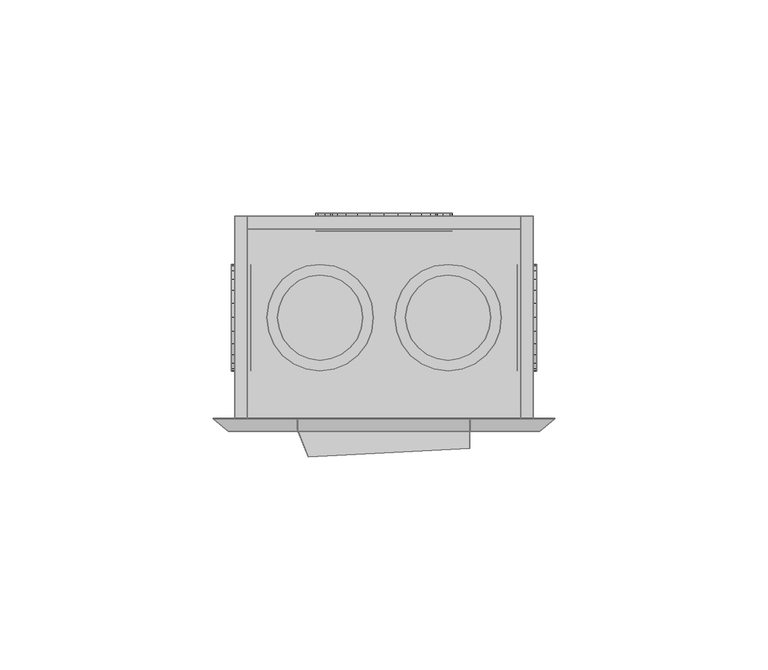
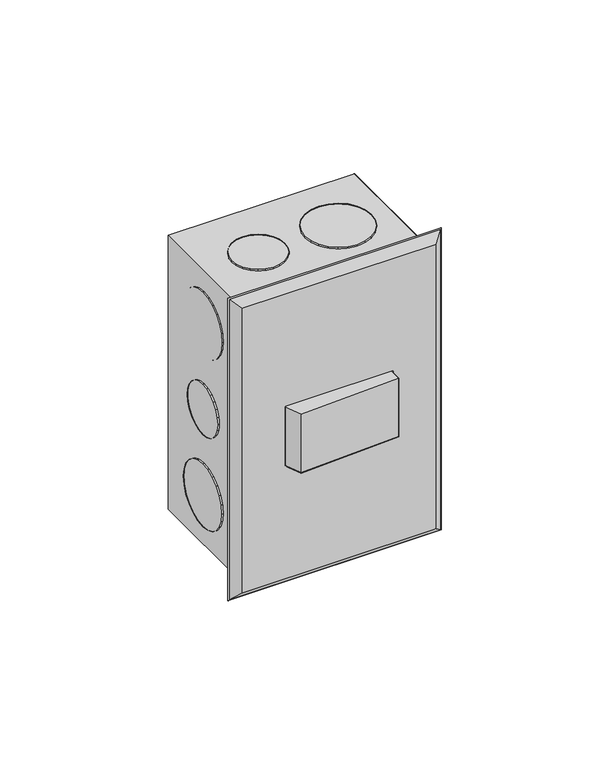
"""IFC4 building model written with IfcOpenShell, lengths in millimetres: proxy geometry,  210333 :  210333."""

from ifc_helpers import new_model, si_unit, origin, place, context, project, spatial, triangles, source, transform, mapped, element, save


def generic_models_d6097048(model_context):
    return source(origin(), model_context, "Body", "Tessellation", [
        triangles([(18080.0998993, 11498.7004578, 1254.3000378), (18077.1000824, 11498.7004578, 1148.7000154), (18080.0998993, 11498.7004578, 1145.6999805), (18077.1000824, 11498.7004578, 1251.2999302), (18010.0995209, 11498.7004578, 1254.3000378), (18013.1005005, 11498.7004578, 1251.2999302), (18010.0995209, 11498.7004578, 1145.6999805), (18013.1005005, 11498.7004578, 1148.7000154), (18077.1000824, 11546.199884, 1251.2999302), (18077.1000824, 11546.199884, 1148.7000154), (18010.0995209, 11546.199884, 1254.3000378), (18010.0995209, 11546.199884, 1145.6999805), (18013.1005005, 11546.199884, 1251.2999302), (18080.0998993, 11546.199884, 1145.6999805), (18013.1005005, 11546.199884, 1148.7000154), (18080.0998993, 11546.199884, 1254.3000378), (18077.1000824, 11543.2000671, 1251.2999302), (18013.1005005, 11543.2000671, 1148.7000154), (18077.1000824, 11543.2000671, 1148.7000154), (18013.1005005, 11543.2000671, 1251.2999302), (18059.0000244, 11542.7000977, 1191.9999887), (18053.1003845, 11542.7000977, 1186.0999855), (18056.4001831, 11542.7000977, 1188.6999722), (18060.5999268, 11542.7000977, 1195.8999687), (18049.2994537, 11542.7000977, 1184.5000105), (18061.0998962, 11542.7000977, 1200.0000092), (18045.0997101, 11542.7000977, 1183.9999683), (18060.5999268, 11542.7000977, 1204.0999769), (18040.9999603, 11542.7000977, 1184.5000105), (18059.0000244, 11542.7000977, 1208.0000296), (18037.1001984, 11542.7000977, 1186.0999855), (18056.4001831, 11542.7000977, 1211.2999735), (18033.8003998, 11542.7000977, 1188.6999722), (18053.1003845, 11542.7000977, 1213.9000328), (18031.3005524, 11542.7000977, 1191.9999887), (18049.2994537, 11542.7000977, 1215.5000078), (18029.6994873, 11542.7000977, 1195.8999687), (18045.0997101, 11542.7000977, 1215.9999773), (18029.0995239, 11542.7000977, 1200.0000092), (18040.9999603, 11542.7000977, 1215.5000078), (18029.6994873, 11542.7000977, 1204.0999769), (18037.1001984, 11542.7000977, 1213.9000328), (18031.3005524, 11542.7000977, 1208.0000296), (18033.8003998, 11542.7000977, 1211.2999735), (18040.9999603, 11546.8998413, 1184.5000105), (18045.0997101, 11546.8998413, 1183.9999683), (18049.2994537, 11546.8998413, 1184.5000105), (18053.1003845, 11546.8998413, 1186.0999855), (18056.4001831, 11546.8998413, 1188.6999722), (18059.0000244, 11546.8998413, 1191.9999887), (18060.5999268, 11546.8998413, 1195.8999687), (18061.0998962, 11546.8998413, 1200.0000092), (18060.5999268, 11546.8998413, 1204.0999769), (18059.0000244, 11546.8998413, 1208.0000296), (18056.4001831, 11546.8998413, 1211.2999735), (18053.1003845, 11546.8998413, 1213.9000328), (18049.2994537, 11546.8998413, 1215.5000078), (18045.0997101, 11546.8998413, 1215.9999773), (18040.9999603, 11546.8998413, 1215.5000078), (18037.1001984, 11546.8998413, 1213.9000328), (18033.8003998, 11546.8998413, 1211.2999735), (18031.3005524, 11546.8998413, 1208.0000296), (18029.6994873, 11546.8998413, 1204.0999769), (18029.0995239, 11546.8998413, 1200.0000092), (18029.6994873, 11546.8998413, 1195.8999687), (18031.3005524, 11546.8998413, 1191.9999887), (18033.8003998, 11546.8998413, 1188.6999722), (18037.1001984, 11546.8998413, 1186.0999855), (18056.0002075, 11542.7000977, 1227.8000565), (18051.4004883, 11542.7000977, 1223.2000465), (18054.0003296, 11542.7000977, 1225.2000698), (18057.2001343, 11542.7000977, 1230.8000187), (18048.3995087, 11542.7000977, 1221.8999805), (18057.6001099, 11542.7000977, 1233.9999687), (18045.0997101, 11542.7000977, 1221.500005), (18057.2001343, 11542.7000977, 1237.2000641), (18041.8999054, 11542.7000977, 1221.8999805), (18056.0002075, 11542.7000977, 1240.3000202), (18038.9000885, 11542.7000977, 1223.2000465), (18054.0003296, 11542.7000977, 1242.800013), (18036.3002472, 11542.7000977, 1225.2000698), (18034.3003693, 11542.7000977, 1227.8000565), (18051.4004883, 11542.7000977, 1244.8000362), (18048.3995087, 11542.7000977, 1246.0999569), (18033.1004425, 11542.7000977, 1230.8000187), (18045.0997101, 11542.7000977, 1246.4999325), (18032.600473, 11542.7000977, 1233.9999687), (18041.8999054, 11542.7000977, 1246.0999569), (18033.1004425, 11542.7000977, 1237.2000641), (18034.3003693, 11542.7000977, 1240.3000202), (18038.9000885, 11542.7000977, 1244.8000362), (18036.3002472, 11542.7000977, 1242.800013), (18033.1004425, 11546.8998413, 1230.8000187), (18034.3003693, 11546.8998413, 1227.8000565), (18036.3002472, 11546.8998413, 1225.2000698), (18038.9000885, 11546.8998413, 1223.2000465), (18041.8999054, 11546.8998413, 1221.8999805), (18045.0997101, 11546.8998413, 1221.500005), (18048.3995087, 11546.8998413, 1221.8999805), (18051.4004883, 11546.8998413, 1223.2000465), (18054.0003296, 11546.8998413, 1225.2000698), (18056.0002075, 11546.8998413, 1227.8000565), (18057.2001343, 11546.8998413, 1230.8000187), (18057.6001099, 11546.8998413, 1233.9999687), (18057.2001343, 11546.8998413, 1237.2000641), (18056.0002075, 11546.8998413, 1240.3000202), (18054.0003296, 11546.8998413, 1242.800013), (18051.4004883, 11546.8998413, 1244.8000362), (18048.3995087, 11546.8998413, 1246.0999569), (18045.0997101, 11546.8998413, 1246.4999325), (18041.8999054, 11546.8998413, 1246.0999569), (18038.9000885, 11546.8998413, 1244.8000362), (18036.3002472, 11546.8998413, 1242.800013), (18034.3003693, 11546.8998413, 1240.3000202), (18033.1004425, 11546.8998413, 1237.2000641), (18032.600473, 11546.8998413, 1233.9999687), (18051.4004883, 11546.8998413, 1155.1999821), (18056.0002075, 11546.8998413, 1159.6999981), (18054.0003296, 11546.8998413, 1157.2000053), (18048.3995087, 11546.8998413, 1153.8999887), (18057.2001343, 11546.8998413, 1162.8000269), (18045.0997101, 11546.8998413, 1153.5000132), (18057.6001099, 11546.8998413, 1165.9999769), (18041.8999054, 11546.8998413, 1153.8999887), (18057.2001343, 11546.8998413, 1169.1999996), (18038.9000885, 11546.8998413, 1155.1999821), (18056.0002075, 11546.8998413, 1172.2000345), (18036.3002472, 11546.8998413, 1157.2000053), (18054.0003296, 11546.8998413, 1174.8000212), (18034.3003693, 11546.8998413, 1159.6999981), (18051.4004883, 11546.8998413, 1176.7999718), (18033.1004425, 11546.8998413, 1162.8000269), (18048.3995087, 11546.8998413, 1178.0999651), (18045.0997101, 11546.8998413, 1178.5000134), (18032.600473, 11546.8998413, 1165.9999769), (18033.1004425, 11546.8998413, 1169.1999996), (18041.8999054, 11546.8998413, 1178.0999651), (18034.3003693, 11546.8998413, 1172.2000345), (18038.9000885, 11546.8998413, 1176.7999718), (18036.3002472, 11546.8998413, 1174.8000212), (18048.3995087, 11542.7000977, 1178.0999651), (18045.0997101, 11542.7000977, 1178.5000134), (18051.4004883, 11542.7000977, 1176.7999718), (18054.0003296, 11542.7000977, 1174.8000212), (18056.0002075, 11542.7000977, 1172.2000345), (18057.2001343, 11542.7000977, 1169.1999996), (18057.6001099, 11542.7000977, 1165.9999769), (18057.2001343, 11542.7000977, 1162.8000269), (18056.0002075, 11542.7000977, 1159.6999981), (18054.0003296, 11542.7000977, 1157.2000053), (18051.4004883, 11542.7000977, 1155.1999821), (18048.3995087, 11542.7000977, 1153.8999887), (18045.0997101, 11542.7000977, 1153.5000132), (18041.8999054, 11542.7000977, 1153.8999887), (18038.9000885, 11542.7000977, 1155.1999821), (18036.3002472, 11542.7000977, 1157.2000053), (18034.3003693, 11542.7000977, 1159.6999981), (18033.1004425, 11542.7000977, 1162.8000269), (18032.600473, 11542.7000977, 1165.9999769), (18033.1004425, 11542.7000977, 1169.1999996), (18034.3003693, 11542.7000977, 1172.2000345), (18036.3002472, 11542.7000977, 1174.8000212), (18038.9000885, 11542.7000977, 1176.7999718), (18041.8999054, 11542.7000977, 1178.0999651), (18076.3001312, 11527.3998688, 1191.3000315), (18076.3001312, 11531.0996429, 1195.0000237), (18076.3001312, 11529.4997406, 1192.9000065), (18076.3001312, 11532.0995819, 1197.4000225), (18076.3001312, 11525.0000153, 1190.3000198), (18076.3001312, 11532.3995636, 1200.0000092), (18076.3001312, 11522.400174, 1189.9999655), (18076.3001312, 11519.9003265, 1190.3000198), (18076.3001312, 11532.0995819, 1202.5999958), (18076.3001312, 11531.0996429, 1204.9999947), (18076.3001312, 11517.4004791, 1191.3000315), (18076.3001312, 11529.4997406, 1207.1000118), (18076.3001312, 11515.3994385, 1192.9000065), (18076.3001312, 11513.7995361, 1195.0000237), (18076.3001312, 11527.3998688, 1208.6999868), (18076.3001312, 11512.7995972, 1197.4000225), (18076.3001312, 11525.0000153, 1209.6999985), (18076.3001312, 11512.3996216, 1200.0000092), (18076.3001312, 11522.400174, 1209.9999802), (18076.3001312, 11512.7995972, 1202.5999958), (18076.3001312, 11519.9003265, 1209.6999985), (18076.3001312, 11517.4004791, 1208.6999868), (18076.3001312, 11513.7995361, 1204.9999947), (18076.3001312, 11515.3994385, 1207.1000118), (18080.8998505, 11522.400174, 1189.9999655), (18080.8998505, 11525.0000153, 1190.3000198), (18080.8998505, 11519.9003265, 1190.3000198), (18080.8998505, 11517.4004791, 1191.3000315), (18080.8998505, 11515.3994385, 1192.9000065), (18080.8998505, 11513.7995361, 1195.0000237), (18080.8998505, 11512.7995972, 1197.4000225), (18080.8998505, 11512.3996216, 1200.0000092), (18080.8998505, 11512.7995972, 1202.5999958), (18080.8998505, 11513.7995361, 1204.9999947), (18080.8998505, 11515.3994385, 1207.1000118), (18080.8998505, 11517.4004791, 1208.6999868), (18080.8998505, 11519.9003265, 1209.6999985), (18080.8998505, 11522.400174, 1209.9999802), (18080.8998505, 11525.0000153, 1209.6999985), (18080.8998505, 11527.3998688, 1208.6999868), (18080.8998505, 11529.4997406, 1207.1000118), (18080.8998505, 11531.0996429, 1204.9999947), (18080.8998505, 11532.0995819, 1202.5999958), (18080.8998505, 11532.3995636, 1200.0000092), (18080.8998505, 11532.0995819, 1197.4000225), (18080.8998505, 11531.0996429, 1195.0000237), (18080.8998505, 11529.4997406, 1192.9000065), (18080.8998505, 11527.3998688, 1191.3000315), (18076.3001312, 11528.6997894, 1223.2000465), (18076.3001312, 11533.2995087, 1227.8000565), (18076.3001312, 11531.2996307, 1225.2000698), (18076.3001312, 11525.6999725, 1221.8999805), (18076.3001312, 11534.4994354, 1230.8000187), (18076.3001312, 11534.9005737, 1233.9999687), (18076.3001312, 11522.400174, 1221.500005), (18076.3001312, 11519.2003693, 1221.8999805), (18076.3001312, 11534.4994354, 1237.2000641), (18076.3001312, 11533.2995087, 1240.3000202), (18076.3001312, 11516.2005524, 1223.2000465), (18076.3001312, 11513.5995483, 1225.2000698), (18076.3001312, 11531.2996307, 1242.800013), (18076.3001312, 11511.5996704, 1227.8000565), (18076.3001312, 11528.6997894, 1244.8000362), (18076.3001312, 11510.3997437, 1230.8000187), (18076.3001312, 11525.6999725, 1246.0999569), (18076.3001312, 11509.8997742, 1233.9999687), (18076.3001312, 11522.400174, 1246.4999325), (18076.3001312, 11510.3997437, 1237.2000641), (18076.3001312, 11519.2003693, 1246.0999569), (18076.3001312, 11511.5996704, 1240.3000202), (18076.3001312, 11516.2005524, 1244.8000362), (18076.3001312, 11513.5995483, 1242.800013), (18080.8998505, 11522.400174, 1221.500005), (18080.8998505, 11525.6999725, 1221.8999805), (18080.8998505, 11519.2003693, 1221.8999805), (18080.8998505, 11516.2005524, 1223.2000465), (18080.8998505, 11513.5995483, 1225.2000698), (18080.8998505, 11511.5996704, 1227.8000565), (18080.8998505, 11510.3997437, 1230.8000187), (18080.8998505, 11509.8997742, 1233.9999687), (18080.8998505, 11510.3997437, 1237.2000641), (18080.8998505, 11511.5996704, 1240.3000202), (18080.8998505, 11513.5995483, 1242.800013), (18080.8998505, 11516.2005524, 1244.8000362), (18080.8998505, 11519.2003693, 1246.0999569), (18080.8998505, 11522.400174, 1246.4999325), (18080.8998505, 11525.6999725, 1246.0999569), (18080.8998505, 11528.6997894, 1244.8000362), (18080.8998505, 11531.2996307, 1242.800013), (18080.8998505, 11533.2995087, 1240.3000202), (18080.8998505, 11534.4994354, 1237.2000641), (18080.8998505, 11534.9005737, 1233.9999687), (18080.8998505, 11534.4994354, 1230.8000187), (18080.8998505, 11533.2995087, 1227.8000565), (18080.8998505, 11531.2996307, 1225.2000698), (18080.8998505, 11528.6997894, 1223.2000465), (18080.8998505, 11533.2995087, 1159.6999981), (18080.8998505, 11528.6997894, 1155.1999821), (18080.8998505, 11531.2996307, 1157.2000053), (18080.8998505, 11534.4994354, 1162.8000269), (18080.8998505, 11525.6999725, 1153.8999887), (18080.8998505, 11534.9005737, 1165.9999769), (18080.8998505, 11522.400174, 1153.5000132), (18080.8998505, 11534.4994354, 1169.1999996), (18080.8998505, 11519.2003693, 1153.8999887), (18080.8998505, 11533.2995087, 1172.2000345), (18080.8998505, 11516.2005524, 1155.1999821), (18080.8998505, 11531.2996307, 1174.8000212), (18080.8998505, 11513.5995483, 1157.2000053), (18080.8998505, 11528.6997894, 1176.7999718), (18080.8998505, 11511.5996704, 1159.6999981), (18080.8998505, 11525.6999725, 1178.0999651), (18080.8998505, 11510.3997437, 1162.8000269), (18080.8998505, 11522.400174, 1178.5000134), (18080.8998505, 11509.8997742, 1165.9999769), (18080.8998505, 11519.2003693, 1178.0999651), (18080.8998505, 11510.3997437, 1169.1999996), (18080.8998505, 11516.2005524, 1176.7999718), (18080.8998505, 11511.5996704, 1172.2000345), (18080.8998505, 11513.5995483, 1174.8000212), (18076.3001312, 11525.6999725, 1178.0999651), (18076.3001312, 11522.400174, 1178.5000134), (18076.3001312, 11519.2003693, 1178.0999651), (18076.3001312, 11516.2005524, 1176.7999718), (18076.3001312, 11513.5995483, 1174.8000212), (18076.3001312, 11511.5996704, 1172.2000345), (18076.3001312, 11510.3997437, 1169.1999996), (18076.3001312, 11509.8997742, 1165.9999769), (18076.3001312, 11510.3997437, 1162.8000269), (18076.3001312, 11511.5996704, 1159.6999981), (18076.3001312, 11513.5995483, 1157.2000053), (18076.3001312, 11516.2005524, 1155.1999821), (18076.3001312, 11519.2003693, 1153.8999887), (18076.3001312, 11522.400174, 1153.5000132), (18076.3001312, 11525.6999725, 1153.8999887), (18076.3001312, 11528.6997894, 1155.1999821), (18076.3001312, 11531.2996307, 1157.2000053), (18076.3001312, 11533.2995087, 1159.6999981), (18076.3001312, 11534.4994354, 1162.8000269), (18076.3001312, 11534.9005737, 1165.9999769), (18076.3001312, 11534.4994354, 1169.1999996), (18076.3001312, 11533.2995087, 1172.2000345), (18076.3001312, 11531.2996307, 1174.8000212), (18076.3001312, 11528.6997894, 1176.7999718), (18013.9004517, 11531.0996429, 1195.0000237), (18013.9004517, 11527.3998688, 1191.3000315), (18013.9004517, 11529.4997406, 1192.9000065), (18013.9004517, 11532.0995819, 1197.4000225), (18013.9004517, 11525.0000153, 1190.3000198), (18013.9004517, 11532.3995636, 1200.0000092), (18013.9004517, 11522.400174, 1189.9999655), (18013.9004517, 11532.0995819, 1202.5999958), (18013.9004517, 11519.9003265, 1190.3000198), (18013.9004517, 11531.0996429, 1204.9999947), (18013.9004517, 11517.4004791, 1191.3000315), (18013.9004517, 11529.4997406, 1207.1000118), (18013.9004517, 11515.3994385, 1192.9000065), (18013.9004517, 11527.3998688, 1208.6999868), (18013.9004517, 11513.7995361, 1195.0000237), (18013.9004517, 11525.0000153, 1209.6999985), (18013.9004517, 11512.7995972, 1197.4000225), (18013.9004517, 11512.3996216, 1200.0000092), (18013.9004517, 11522.400174, 1209.9999802), (18013.9004517, 11519.9003265, 1209.6999985), (18013.9004517, 11512.7995972, 1202.5999958), (18013.9004517, 11517.4004791, 1208.6999868), (18013.9004517, 11513.7995361, 1204.9999947), (18013.9004517, 11515.3994385, 1207.1000118), (18009.2995697, 11525.0000153, 1209.6999985), (18009.2995697, 11522.400174, 1209.9999802), (18009.2995697, 11519.9003265, 1209.6999985), (18009.2995697, 11517.4004791, 1208.6999868), (18009.2995697, 11515.3994385, 1207.1000118), (18009.2995697, 11513.7995361, 1204.9999947), (18009.2995697, 11512.7995972, 1202.5999958), (18009.2995697, 11512.3996216, 1200.0000092), (18009.2995697, 11512.7995972, 1197.4000225), (18009.2995697, 11513.7995361, 1195.0000237), (18009.2995697, 11515.3994385, 1192.9000065), (18009.2995697, 11517.4004791, 1191.3000315), (18009.2995697, 11519.9003265, 1190.3000198), (18009.2995697, 11522.400174, 1189.9999655), (18009.2995697, 11525.0000153, 1190.3000198), (18009.2995697, 11527.3998688, 1191.3000315), (18009.2995697, 11529.4997406, 1192.9000065), (18009.2995697, 11531.0996429, 1195.0000237), (18009.2995697, 11532.0995819, 1197.4000225), (18009.2995697, 11532.3995636, 1200.0000092), (18009.2995697, 11532.0995819, 1202.5999958), (18009.2995697, 11531.0996429, 1204.9999947), (18009.2995697, 11529.4997406, 1207.1000118), (18009.2995697, 11527.3998688, 1208.6999868), (18013.9004517, 11533.2995087, 1159.6999981), (18013.9004517, 11528.6997894, 1155.1999821), (18013.9004517, 11531.2996307, 1157.2000053), (18013.9004517, 11534.4994354, 1162.8000269), (18013.9004517, 11525.6999725, 1153.8999887), (18013.9004517, 11534.9005737, 1165.9999769), (18013.9004517, 11522.400174, 1153.5000132), (18013.9004517, 11534.4994354, 1169.1999996), (18013.9004517, 11519.2003693, 1153.8999887), (18013.9004517, 11533.2995087, 1172.2000345), (18013.9004517, 11516.2005524, 1155.1999821), (18013.9004517, 11531.2996307, 1174.8000212), (18013.9004517, 11513.5995483, 1157.2000053), (18013.9004517, 11528.6997894, 1176.7999718), (18013.9004517, 11511.5996704, 1159.6999981), (18013.9004517, 11525.6999725, 1178.0999651), (18013.9004517, 11510.3997437, 1162.8000269), (18013.9004517, 11522.400174, 1178.5000134), (18013.9004517, 11509.8997742, 1165.9999769), (18013.9004517, 11519.2003693, 1178.0999651), (18013.9004517, 11510.3997437, 1169.1999996), (18013.9004517, 11516.2005524, 1176.7999718), (18013.9004517, 11511.5996704, 1172.2000345), (18013.9004517, 11513.5995483, 1174.8000212), (18009.2995697, 11525.6999725, 1178.0999651), (18009.2995697, 11522.400174, 1178.5000134), (18009.2995697, 11519.2003693, 1178.0999651), (18009.2995697, 11516.2005524, 1176.7999718), (18009.2995697, 11513.5995483, 1174.8000212), (18009.2995697, 11511.5996704, 1172.2000345), (18009.2995697, 11510.3997437, 1169.1999996), (18009.2995697, 11509.8997742, 1165.9999769), (18009.2995697, 11510.3997437, 1162.8000269), (18009.2995697, 11511.5996704, 1159.6999981), (18009.2995697, 11513.5995483, 1157.2000053), (18009.2995697, 11516.2005524, 1155.1999821), (18009.2995697, 11519.2003693, 1153.8999887), (18009.2995697, 11522.400174, 1153.5000132), (18009.2995697, 11525.6999725, 1153.8999887), (18009.2995697, 11528.6997894, 1155.1999821), (18009.2995697, 11531.2996307, 1157.2000053), (18009.2995697, 11533.2995087, 1159.6999981), (18009.2995697, 11534.4994354, 1162.8000269), (18009.2995697, 11534.9005737, 1165.9999769), (18009.2995697, 11534.4994354, 1169.1999996), (18009.2995697, 11533.2995087, 1172.2000345), (18009.2995697, 11531.2996307, 1174.8000212), (18009.2995697, 11528.6997894, 1176.7999718), (18009.2995697, 11528.6997894, 1223.2000465), (18009.2995697, 11533.2995087, 1227.8000565), (18009.2995697, 11531.2996307, 1225.2000698), (18009.2995697, 11525.6999725, 1221.8999805), (18009.2995697, 11534.4994354, 1230.8000187), (18009.2995697, 11534.9005737, 1233.9999687), (18009.2995697, 11522.400174, 1221.500005), (18009.2995697, 11519.2003693, 1221.8999805), (18009.2995697, 11534.4994354, 1237.2000641), (18009.2995697, 11533.2995087, 1240.3000202), (18009.2995697, 11516.2005524, 1223.2000465), (18009.2995697, 11513.5995483, 1225.2000698), (18009.2995697, 11531.2996307, 1242.800013), (18009.2995697, 11511.5996704, 1227.8000565), (18009.2995697, 11528.6997894, 1244.8000362), (18009.2995697, 11510.3997437, 1230.8000187), (18009.2995697, 11525.6999725, 1246.0999569), (18009.2995697, 11509.8997742, 1233.9999687), (18009.2995697, 11522.400174, 1246.4999325), (18009.2995697, 11510.3997437, 1237.2000641), (18009.2995697, 11519.2003693, 1246.0999569), (18009.2995697, 11511.5996704, 1240.3000202), (18009.2995697, 11516.2005524, 1244.8000362), (18009.2995697, 11513.5995483, 1242.800013), (18013.9004517, 11522.400174, 1221.500005), (18013.9004517, 11525.6999725, 1221.8999805), (18013.9004517, 11519.2003693, 1221.8999805), (18013.9004517, 11516.2005524, 1223.2000465), (18013.9004517, 11513.5995483, 1225.2000698), (18013.9004517, 11511.5996704, 1227.8000565), (18013.9004517, 11510.3997437, 1230.8000187), (18013.9004517, 11509.8997742, 1233.9999687), (18013.9004517, 11510.3997437, 1237.2000641), (18013.9004517, 11511.5996704, 1240.3000202), (18013.9004517, 11513.5995483, 1242.800013), (18013.9004517, 11516.2005524, 1244.8000362), (18013.9004517, 11519.2003693, 1246.0999569), (18013.9004517, 11522.400174, 1246.4999325), (18013.9004517, 11525.6999725, 1246.0999569), (18013.9004517, 11528.6997894, 1244.8000362), (18013.9004517, 11531.2996307, 1242.800013), (18013.9004517, 11533.2995087, 1240.3000202), (18013.9004517, 11534.4994354, 1237.2000641), (18013.9004517, 11534.9005737, 1233.9999687), (18013.9004517, 11534.4994354, 1230.8000187), (18013.9004517, 11533.2995087, 1227.8000565), (18013.9004517, 11531.2996307, 1225.2000698), (18013.9004517, 11528.6997894, 1223.2000465), (18071.0004547, 11528.6997894, 1250.9999485), (18066.3995728, 11533.2995087, 1250.9999485), (18069.0005768, 11531.2996307, 1250.9999485), (18072.2003815, 11525.6999725, 1250.9999485), (18063.3997559, 11534.4994354, 1250.9999485), (18060.0999573, 11534.9005737, 1250.9999485), (18072.6003571, 11522.400174, 1250.9999485), (18072.2003815, 11519.2003693, 1250.9999485), (18056.9001526, 11534.4994354, 1250.9999485), (18053.9003357, 11533.2995087, 1250.9999485), (18071.0004547, 11516.2005524, 1250.9999485), (18069.0005768, 11513.5995483, 1250.9999485), (18051.3004944, 11531.2996307, 1250.9999485), (18049.2994537, 11528.6997894, 1250.9999485), (18066.3995728, 11511.5996704, 1250.9999485), (18063.3997559, 11510.3997437, 1250.9999485), (18048.099527, 11525.6999725, 1250.9999485), (18060.0999573, 11509.8997742, 1250.9999485), (18047.5995575, 11522.400174, 1250.9999485), (18056.9001526, 11510.3997437, 1250.9999485), (18048.099527, 11519.2003693, 1250.9999485), (18049.2994537, 11516.2005524, 1250.9999485), (18053.9003357, 11511.5996704, 1250.9999485), (18051.3004944, 11513.5995483, 1250.9999485), (18060.0999573, 11534.9005737, 1255.1999828), (18056.9001526, 11534.4994354, 1255.1999828), (18063.3997559, 11534.4994354, 1255.1999828), (18066.3995728, 11533.2995087, 1255.1999828), (18069.0005768, 11531.2996307, 1255.1999828), (18071.0004547, 11528.6997894, 1255.1999828), (18072.2003815, 11525.6999725, 1255.1999828), (18072.6003571, 11522.400174, 1255.1999828), (18072.2003815, 11519.2003693, 1255.1999828), (18071.0004547, 11516.2005524, 1255.1999828), (18069.0005768, 11513.5995483, 1255.1999828), (18066.3995728, 11511.5996704, 1255.1999828), (18063.3997559, 11510.3997437, 1255.1999828), (18060.0999573, 11509.8997742, 1255.1999828), (18056.9001526, 11510.3997437, 1255.1999828), (18053.9003357, 11511.5996704, 1255.1999828), (18051.3004944, 11513.5995483, 1255.1999828), (18049.2994537, 11516.2005524, 1255.1999828), (18048.099527, 11519.2003693, 1255.1999828), (18047.5995575, 11522.400174, 1255.1999828), (18048.099527, 11525.6999725, 1255.1999828), (18049.2994537, 11528.6997894, 1255.1999828), (18051.3004944, 11531.2996307, 1255.1999828), (18053.9003357, 11533.2995087, 1255.1999828), (18038.8000946, 11527.3998688, 1250.9999485), (18035.1003204, 11531.0996429, 1250.9999485), (18037.2001923, 11529.4997406, 1250.9999485), (18032.7004669, 11532.0995819, 1250.9999485), (18039.8000336, 11525.0000153, 1250.9999485), (18030.0994629, 11532.3995636, 1250.9999485), (18040.1000153, 11522.400174, 1250.9999485), (18039.8000336, 11519.9003265, 1250.9999485), (18027.4996216, 11532.0995819, 1250.9999485), (18025.0997681, 11531.0996429, 1250.9999485), (18038.8000946, 11517.4004791, 1250.9999485), (18023.0998901, 11529.4997406, 1250.9999485), (18037.2001923, 11515.3994385, 1250.9999485), (18035.1003204, 11513.7995361, 1250.9999485), (18021.4999878, 11527.3998688, 1250.9999485), (18020.5000488, 11525.0000153, 1250.9999485), (18032.7004669, 11512.7995972, 1250.9999485), (18030.0994629, 11512.3996216, 1250.9999485), (18020.1000732, 11522.400174, 1250.9999485), (18027.4996216, 11512.7995972, 1250.9999485), (18020.5000488, 11519.9003265, 1250.9999485), (18025.0997681, 11513.7995361, 1250.9999485), (18021.4999878, 11517.4004791, 1250.9999485), (18023.0998901, 11515.3994385, 1250.9999485), (18027.4996216, 11532.0995819, 1255.1999828), (18025.0997681, 11531.0996429, 1255.1999828), (18030.0994629, 11532.3995636, 1255.1999828), (18032.7004669, 11532.0995819, 1255.1999828), (18035.1003204, 11531.0996429, 1255.1999828), (18037.2001923, 11529.4997406, 1255.1999828), (18038.8000946, 11527.3998688, 1255.1999828), (18039.8000336, 11525.0000153, 1255.1999828), (18040.1000153, 11522.400174, 1255.1999828), (18039.8000336, 11519.9003265, 1255.1999828), (18038.8000946, 11517.4004791, 1255.1999828), (18037.2001923, 11515.3994385, 1255.1999828), (18035.1003204, 11513.7995361, 1255.1999828), (18032.7004669, 11512.7995972, 1255.1999828), (18030.0994629, 11512.3996216, 1255.1999828), (18027.4996216, 11512.7995972, 1255.1999828), (18025.0997681, 11513.7995361, 1255.1999828), (18023.0998901, 11515.3994385, 1255.1999828), (18021.4999878, 11517.4004791, 1255.1999828), (18020.5000488, 11519.9003265, 1255.1999828), (18020.1000732, 11522.400174, 1255.1999828), (18020.5000488, 11525.0000153, 1255.1999828), (18021.4999878, 11527.3998688, 1255.1999828), (18023.0998901, 11529.4997406, 1255.1999828), (18068.7994263, 11527.3998688, 1144.8000355), (18065.0996521, 11531.0996429, 1144.8000355), (18067.1995239, 11529.4997406, 1144.8000355), (18062.6997986, 11532.0995819, 1144.8000355), (18069.800528, 11525.0000153, 1144.8000355), (18060.0999573, 11532.3995636, 1144.8000355), (18070.1005096, 11522.400174, 1144.8000355), (18069.800528, 11519.9003265, 1144.8000355), (18057.500116, 11532.0995819, 1144.8000355), (18055.1002625, 11531.0996429, 1144.8000355), (18068.7994263, 11517.4004791, 1144.8000355), (18053.1003845, 11529.4997406, 1144.8000355), (18067.1995239, 11515.3994385, 1144.8000355), (18065.0996521, 11513.7995361, 1144.8000355), (18051.5004822, 11527.3998688, 1144.8000355), (18050.5005432, 11525.0000153, 1144.8000355), (18062.6997986, 11512.7995972, 1144.8000355), (18060.0999573, 11512.3996216, 1144.8000355), (18050.1005676, 11522.400174, 1144.8000355), (18057.500116, 11512.7995972, 1144.8000355), (18050.5005432, 11519.9003265, 1144.8000355), (18055.1002625, 11513.7995361, 1144.8000355), (18051.5004822, 11517.4004791, 1144.8000355), (18053.1003845, 11515.3994385, 1144.8000355), (18062.6997986, 11532.0995819, 1149.099991), (18060.0999573, 11532.3995636, 1149.099991), (18065.0996521, 11531.0996429, 1149.099991), (18067.1995239, 11529.4997406, 1149.099991), (18068.7994263, 11527.3998688, 1149.099991), (18069.800528, 11525.0000153, 1149.099991), (18070.1005096, 11522.400174, 1149.099991), (18069.800528, 11519.9003265, 1149.099991), (18068.7994263, 11517.4004791, 1149.099991), (18067.1995239, 11515.3994385, 1149.099991), (18065.0996521, 11513.7995361, 1149.099991), (18062.6997986, 11512.7995972, 1149.099991), (18060.0999573, 11512.3996216, 1149.099991), (18057.500116, 11512.7995972, 1149.099991), (18055.1002625, 11513.7995361, 1149.099991), (18053.1003845, 11515.3994385, 1149.099991), (18051.5004822, 11517.4004791, 1149.099991), (18050.5005432, 11519.9003265, 1149.099991), (18050.1005676, 11522.400174, 1149.099991), (18050.5005432, 11525.0000153, 1149.099991), (18051.5004822, 11527.3998688, 1149.099991), (18053.1003845, 11529.4997406, 1149.099991), (18055.1002625, 11531.0996429, 1149.099991), (18057.500116, 11532.0995819, 1149.099991), (18040.9999603, 11528.6997894, 1144.8000355), (18036.4002411, 11533.2995087, 1144.8000355), (18039.0000824, 11531.2996307, 1144.8000355), (18042.1998871, 11525.6999725, 1144.8000355), (18033.4004242, 11534.4994354, 1144.8000355), (18030.0994629, 11534.9005737, 1144.8000355), (18042.5998627, 11522.400174, 1144.8000355), (18042.1998871, 11519.2003693, 1144.8000355), (18026.8996582, 11534.4994354, 1144.8000355), (18023.8998413, 11533.2995087, 1144.8000355), (18040.9999603, 11516.2005524, 1144.8000355), (18039.0000824, 11513.5995483, 1144.8000355), (18021.3, 11531.2996307, 1144.8000355), (18019.3001221, 11528.6997894, 1144.8000355), (18036.4002411, 11511.5996704, 1144.8000355), (18033.4004242, 11510.3997437, 1144.8000355), (18018.1001953, 11525.6999725, 1144.8000355), (18030.0994629, 11509.8997742, 1144.8000355), (18017.6002258, 11522.400174, 1144.8000355), (18026.8996582, 11510.3997437, 1144.8000355), (18018.1001953, 11519.2003693, 1144.8000355), (18019.3001221, 11516.2005524, 1144.8000355), (18023.8998413, 11511.5996704, 1144.8000355), (18021.3, 11513.5995483, 1144.8000355), (18026.8996582, 11534.4994354, 1149.099991), (18023.8998413, 11533.2995087, 1149.099991), (18030.0994629, 11534.9005737, 1149.099991), (18033.4004242, 11534.4994354, 1149.099991), (18036.4002411, 11533.2995087, 1149.099991), (18039.0000824, 11531.2996307, 1149.099991), (18040.9999603, 11528.6997894, 1149.099991), (18042.1998871, 11525.6999725, 1149.099991), (18042.5998627, 11522.400174, 1149.099991), (18042.1998871, 11519.2003693, 1149.099991), (18040.9999603, 11516.2005524, 1149.099991), (18039.0000824, 11513.5995483, 1149.099991), (18036.4002411, 11511.5996704, 1149.099991), (18033.4004242, 11510.3997437, 1149.099991), (18030.0994629, 11509.8997742, 1149.099991), (18026.8996582, 11510.3997437, 1149.099991), (18023.8998413, 11511.5996704, 1149.099991), (18021.3, 11513.5995483, 1149.099991), (18019.3001221, 11516.2005524, 1149.099991), (18018.1001953, 11519.2003693, 1149.099991), (18017.6002258, 11522.400174, 1149.099991), (18018.1001953, 11525.6999725, 1149.099991), (18019.3001221, 11528.6997894, 1149.099991), (18021.3, 11531.2996307, 1149.099991), (18005.099826, 11498.7004578, 1139.9999651), (18065.2996399, 11498.7004578, 1188.2999966), (18085.0995941, 11498.7004578, 1139.9999651), (18024.8997803, 11498.7004578, 1188.2999966), (18005.099826, 11498.7004578, 1259.9999805), (18024.8997803, 11498.7004578, 1211.7000217), (18085.0995941, 11498.7004578, 1259.9999805), (18065.2996399, 11498.7004578, 1211.7000217), (18024.8997803, 11495.6994781, 1188.2999966), (18024.8997803, 11495.6994781, 1211.7000217), (18065.2996399, 11495.6994781, 1188.2999966), (18065.2996399, 11495.6994781, 1211.7000217), (18081.5998077, 11495.6994781, 1143.4999695), (18081.5998077, 11495.6994781, 1256.5000488), (18008.5996124, 11495.6994781, 1143.4999695), (18008.5996124, 11495.6994781, 1256.5000488), (18065.199646, 11491.6997223, 1188.1000088), (18024.7997864, 11498.7004578, 1188.1000088), (18065.199646, 11498.7004578, 1188.1000088), (18027.3996277, 11489.7998383, 1188.1000088), (18024.7997864, 11496.1994476, 1188.1000088), (18065.199646, 11498.7004578, 1211.500034), (18024.7997864, 11498.7004578, 1211.500034), (18065.199646, 11491.6997223, 1211.500034), (18027.3996277, 11489.7998383, 1211.500034), (18024.7997864, 11496.1994476, 1211.500034)], [[1, 2, 3], [2, 1, 4], [5, 4, 1], [4, 5, 6], [3, 2, 7], [7, 2, 8], [7, 8, 6], [7, 6, 5], [2, 9, 10], [9, 2, 4], [7, 11, 12], [11, 7, 5], [4, 13, 9], [13, 4, 6], [3, 12, 14], [12, 3, 7], [13, 8, 15], [8, 13, 6], [16, 3, 14], [3, 16, 1], [15, 2, 10], [2, 15, 8], [11, 1, 16], [1, 11, 5], [12, 10, 14], [10, 12, 15], [11, 15, 12], [15, 11, 13], [14, 10, 16], [16, 10, 9], [16, 9, 13], [16, 13, 11], [17, 18, 19], [18, 17, 20], [18, 13, 15], [13, 18, 20], [19, 15, 10], [15, 19, 18], [9, 19, 10], [19, 9, 17], [13, 17, 9], [17, 13, 20], [15, 9, 10], [9, 15, 13], [21, 22, 23], [22, 21, 24], [25, 22, 24], [25, 24, 26], [27, 25, 26], [27, 26, 28], [29, 27, 28], [29, 28, 30], [31, 29, 30], [31, 30, 32], [31, 32, 33], [33, 32, 34], [33, 34, 35], [35, 34, 36], [35, 36, 37], [37, 36, 38], [37, 38, 39], [39, 38, 40], [39, 40, 41], [41, 40, 42], [41, 42, 43], [43, 42, 44], [27, 45, 46], [45, 27, 29], [25, 46, 47], [46, 25, 27], [22, 47, 48], [47, 22, 25], [23, 48, 49], [48, 23, 22], [50, 23, 49], [23, 50, 21], [51, 21, 50], [21, 51, 24], [52, 24, 51], [24, 52, 26], [53, 26, 52], [26, 53, 28], [54, 28, 53], [28, 54, 30], [55, 30, 54], [30, 55, 32], [56, 32, 55], [32, 56, 34], [57, 34, 56], [34, 57, 36], [58, 36, 57], [36, 58, 38], [59, 38, 58], [38, 59, 40], [60, 40, 59], [40, 60, 42], [61, 42, 60], [42, 61, 44], [43, 61, 62], [61, 43, 44], [41, 62, 63], [62, 41, 43], [39, 63, 64], [63, 39, 41], [37, 64, 65], [64, 37, 39], [35, 65, 66], [65, 35, 37], [33, 66, 67], [66, 33, 35], [31, 67, 68], [67, 31, 33], [29, 68, 45], [68, 29, 31], [48, 50, 49], [50, 48, 47], [51, 50, 47], [51, 47, 46], [52, 51, 46], [52, 46, 45], [53, 52, 45], [53, 45, 68], [54, 53, 68], [54, 68, 67], [54, 67, 55], [55, 67, 66], [55, 66, 56], [56, 66, 65], [56, 65, 57], [57, 65, 64], [57, 64, 58], [58, 64, 63], [58, 63, 59], [59, 63, 62], [59, 62, 60], [60, 62, 61], [69, 70, 71], [70, 69, 72], [73, 70, 72], [73, 72, 74], [75, 73, 74], [75, 74, 76], [77, 75, 76], [77, 76, 78], [79, 77, 78], [79, 78, 80], [81, 79, 80], [81, 80, 82], [82, 80, 83], [82, 83, 84], [82, 84, 85], [85, 84, 86], [85, 86, 87], [87, 86, 88], [87, 88, 89], [89, 88, 90], [90, 88, 91], [90, 91, 92], [82, 93, 94], [93, 82, 85], [81, 94, 95], [94, 81, 82], [79, 95, 96], [95, 79, 81], [77, 96, 97], [96, 77, 79], [75, 97, 98], [97, 75, 77], [73, 98, 99], [98, 73, 75], [70, 99, 100], [99, 70, 73], [71, 100, 101], [100, 71, 70], [102, 71, 101], [71, 102, 69], [103, 69, 102], [69, 103, 72], [104, 72, 103], [72, 104, 74], [105, 74, 104], [74, 105, 76], [106, 76, 105], [76, 106, 78], [107, 78, 106], [78, 107, 80], [108, 80, 107], [80, 108, 83], [109, 83, 108], [83, 109, 84], [110, 84, 109], [84, 110, 86], [111, 86, 110], [86, 111, 88], [112, 88, 111], [88, 112, 91], [113, 91, 112], [91, 113, 92], [90, 113, 114], [113, 90, 92], [89, 114, 115], [114, 89, 90], [87, 115, 116], [115, 87, 89], [85, 116, 93], [116, 85, 87], [100, 102, 101], [102, 100, 99], [103, 102, 99], [103, 99, 98], [104, 103, 98], [104, 98, 97], [105, 104, 97], [106, 105, 97], [106, 97, 96], [106, 96, 95], [106, 95, 107], [107, 95, 94], [107, 94, 108], [108, 94, 93], [108, 93, 109], [109, 93, 116], [109, 116, 110], [110, 116, 115], [110, 115, 111], [111, 115, 114], [111, 114, 112], [112, 114, 113], [117, 118, 119], [118, 117, 120], [121, 118, 120], [121, 120, 122], [123, 121, 122], [123, 122, 124], [125, 123, 124], [125, 124, 126], [127, 125, 126], [127, 126, 128], [127, 128, 129], [129, 128, 130], [129, 130, 131], [131, 130, 132], [131, 132, 133], [133, 132, 134], [134, 132, 135], [134, 135, 136], [134, 136, 137], [137, 136, 138], [137, 138, 139], [139, 138, 140], [134, 141, 133], [141, 134, 142], [133, 143, 131], [143, 133, 141], [131, 144, 129], [144, 131, 143], [129, 145, 127], [145, 129, 144], [127, 146, 125], [146, 127, 145], [125, 147, 123], [147, 125, 146], [123, 148, 121], [148, 123, 147], [121, 149, 118], [149, 121, 148], [118, 150, 119], [150, 118, 149], [150, 117, 119], [117, 150, 151], [151, 120, 117], [120, 151, 152], [152, 122, 120], [122, 152, 153], [153, 124, 122], [124, 153, 154], [154, 126, 124], [126, 154, 155], [155, 128, 126], [128, 155, 156], [156, 130, 128], [130, 156, 157], [157, 132, 130], [132, 157, 158], [158, 135, 132], [135, 158, 159], [159, 136, 135], [136, 159, 160], [160, 138, 136], [138, 160, 161], [161, 140, 138], [140, 161, 162], [140, 163, 139], [163, 140, 162], [139, 164, 137], [164, 139, 163], [137, 142, 134], [142, 137, 164], [149, 151, 150], [151, 149, 148], [152, 151, 148], [153, 152, 148], [153, 148, 147], [153, 147, 146], [154, 153, 146], [154, 146, 145], [155, 154, 145], [155, 145, 144], [156, 155, 144], [156, 144, 157], [157, 144, 143], [157, 143, 141], [157, 141, 158], [158, 141, 142], [158, 142, 159], [159, 142, 164], [159, 164, 160], [160, 164, 163], [160, 163, 161], [161, 163, 162], [165, 166, 167], [168, 166, 165], [168, 165, 169], [170, 168, 169], [170, 169, 171], [170, 171, 172], [173, 170, 172], [174, 173, 172], [174, 172, 175], [176, 174, 175], [176, 175, 177], [176, 177, 178], [176, 178, 179], [179, 178, 180], [179, 180, 181], [181, 180, 182], [181, 182, 183], [183, 182, 184], [183, 184, 185], [185, 184, 186], [186, 184, 187], [186, 187, 188], [189, 169, 190], [169, 189, 171], [191, 171, 189], [171, 191, 172], [192, 172, 191], [172, 192, 175], [193, 175, 192], [175, 193, 177], [194, 177, 193], [177, 194, 178], [195, 178, 194], [178, 195, 180], [196, 180, 195], [180, 196, 182], [197, 182, 196], [182, 197, 184], [198, 184, 197], [184, 198, 187], [199, 187, 198], [187, 199, 188], [186, 199, 200], [199, 186, 188], [185, 200, 201], [200, 185, 186], [183, 201, 202], [201, 183, 185], [181, 202, 203], [202, 181, 183], [179, 203, 204], [203, 179, 181], [176, 204, 205], [204, 176, 179], [174, 205, 206], [205, 174, 176], [173, 206, 207], [206, 173, 174], [170, 207, 208], [207, 170, 173], [168, 208, 209], [208, 168, 170], [166, 209, 210], [209, 166, 168], [167, 210, 211], [210, 167, 166], [212, 167, 211], [167, 212, 165], [190, 165, 212], [165, 190, 169], [210, 212, 211], [212, 210, 209], [190, 212, 209], [190, 209, 208], [189, 190, 208], [189, 208, 207], [191, 189, 207], [191, 207, 206], [192, 191, 206], [192, 206, 205], [192, 205, 193], [193, 205, 204], [193, 204, 194], [194, 204, 203], [194, 203, 195], [195, 203, 196], [196, 203, 202], [196, 202, 201], [196, 201, 197], [197, 201, 200], [197, 200, 198], [198, 200, 199], [213, 214, 215], [214, 213, 216], [217, 214, 216], [218, 217, 216], [218, 216, 219], [218, 219, 220], [221, 218, 220], [222, 221, 220], [222, 220, 223], [222, 223, 224], [222, 224, 225], [225, 224, 226], [225, 226, 227], [227, 226, 228], [227, 228, 229], [229, 228, 230], [229, 230, 231], [231, 230, 232], [231, 232, 233], [233, 232, 234], [233, 234, 235], [235, 234, 236], [237, 216, 238], [216, 237, 219], [239, 219, 237], [219, 239, 220], [240, 220, 239], [220, 240, 223], [241, 223, 240], [223, 241, 224], [242, 224, 241], [224, 242, 226], [243, 226, 242], [226, 243, 228], [244, 228, 243], [228, 244, 230], [245, 230, 244], [230, 245, 232], [246, 232, 245], [232, 246, 234], [247, 234, 246], [234, 247, 236], [235, 247, 248], [247, 235, 236], [233, 248, 249], [248, 233, 235], [231, 249, 250], [249, 231, 233], [229, 250, 251], [250, 229, 231], [227, 251, 252], [251, 227, 229], [225, 252, 253], [252, 225, 227], [222, 253, 254], [253, 222, 225], [221, 254, 255], [254, 221, 222], [218, 255, 256], [255, 218, 221], [217, 256, 257], [256, 217, 218], [214, 257, 258], [257, 214, 217], [215, 258, 259], [258, 215, 214], [260, 215, 259], [215, 260, 213], [238, 213, 260], [213, 238, 216], [258, 260, 259], [260, 258, 257], [238, 260, 257], [238, 257, 256], [237, 238, 256], [237, 256, 255], [239, 237, 255], [239, 255, 254], [240, 239, 254], [240, 254, 253], [241, 240, 253], [241, 253, 252], [241, 252, 242], [242, 252, 251], [242, 251, 243], [243, 251, 244], [244, 251, 250], [244, 250, 249], [244, 249, 245], [245, 249, 246], [246, 249, 248], [246, 248, 247], [261, 262, 263], [262, 261, 264], [265, 262, 264], [265, 264, 266], [267, 265, 266], [267, 266, 268], [269, 267, 268], [269, 268, 270], [271, 269, 270], [271, 270, 272], [273, 271, 272], [273, 272, 274], [273, 274, 275], [275, 274, 276], [275, 276, 277], [277, 276, 278], [277, 278, 279], [279, 278, 280], [279, 280, 281], [281, 280, 282], [281, 282, 283], [283, 282, 284], [285, 278, 276], [278, 285, 286], [286, 280, 278], [280, 286, 287], [287, 282, 280], [282, 287, 288], [288, 284, 282], [284, 288, 289], [284, 290, 283], [290, 284, 289], [283, 291, 281], [291, 283, 290], [281, 292, 279], [292, 281, 291], [279, 293, 277], [293, 279, 292], [277, 294, 275], [294, 277, 293], [275, 295, 273], [295, 275, 294], [273, 296, 271], [296, 273, 295], [271, 297, 269], [297, 271, 296], [269, 298, 267], [298, 269, 297], [267, 299, 265], [299, 267, 298], [265, 300, 262], [300, 265, 299], [262, 301, 263], [301, 262, 300], [301, 261, 263], [261, 301, 302], [302, 264, 261], [264, 302, 303], [303, 266, 264], [266, 303, 304], [304, 268, 266], [268, 304, 305], [305, 270, 268], [270, 305, 306], [306, 272, 270], [272, 306, 307], [307, 274, 272], [274, 307, 308], [308, 276, 274], [276, 308, 285], [300, 302, 301], [302, 300, 299], [303, 302, 299], [303, 299, 298], [304, 303, 298], [304, 298, 297], [305, 304, 297], [305, 297, 296], [306, 305, 296], [306, 296, 295], [306, 295, 307], [307, 295, 294], [307, 294, 308], [308, 294, 293], [308, 293, 285], [285, 293, 286], [286, 293, 292], [286, 292, 291], [286, 291, 287], [287, 291, 288], [288, 291, 290], [288, 290, 289], [309, 310, 311], [310, 309, 312], [313, 310, 312], [313, 312, 314], [315, 313, 314], [315, 314, 316], [317, 315, 316], [317, 316, 318], [319, 317, 318], [319, 318, 320], [319, 320, 321], [321, 320, 322], [321, 322, 323], [323, 322, 324], [323, 324, 325], [325, 324, 326], [326, 324, 327], [326, 327, 328], [326, 328, 329], [329, 328, 330], [329, 330, 331], [331, 330, 332], [333, 327, 324], [327, 333, 334], [334, 328, 327], [328, 334, 335], [335, 330, 328], [330, 335, 336], [336, 332, 330], [332, 336, 337], [332, 338, 331], [338, 332, 337], [331, 339, 329], [339, 331, 338], [329, 340, 326], [340, 329, 339], [326, 341, 325], [341, 326, 340], [325, 342, 323], [342, 325, 341], [323, 343, 321], [343, 323, 342], [321, 344, 319], [344, 321, 343], [319, 345, 317], [345, 319, 344], [317, 346, 315], [346, 317, 345], [315, 347, 313], [347, 315, 346], [313, 348, 310], [348, 313, 347], [310, 349, 311], [349, 310, 348], [349, 309, 311], [309, 349, 350], [350, 312, 309], [312, 350, 351], [351, 314, 312], [314, 351, 352], [352, 316, 314], [316, 352, 353], [353, 318, 316], [318, 353, 354], [354, 320, 318], [320, 354, 355], [355, 322, 320], [322, 355, 356], [356, 324, 322], [324, 356, 333], [348, 350, 349], [351, 350, 348], [351, 348, 347], [352, 351, 347], [352, 347, 346], [352, 346, 345], [353, 352, 345], [354, 353, 345], [354, 345, 344], [355, 354, 344], [355, 344, 343], [355, 343, 342], [355, 342, 356], [356, 342, 341], [356, 341, 333], [333, 341, 340], [333, 340, 334], [334, 340, 339], [334, 339, 335], [335, 339, 336], [336, 339, 338], [336, 338, 337], [357, 358, 359], [358, 357, 360], [361, 358, 360], [361, 360, 362], [363, 361, 362], [363, 362, 364], [365, 363, 364], [365, 364, 366], [367, 365, 366], [367, 366, 368], [369, 367, 368], [369, 368, 370], [369, 370, 371], [371, 370, 372], [371, 372, 373], [373, 372, 374], [373, 374, 375], [375, 374, 376], [375, 376, 377], [377, 376, 378], [377, 378, 379], [379, 378, 380], [381, 374, 372], [374, 381, 382], [382, 376, 374], [376, 382, 383], [383, 378, 376], [378, 383, 384], [384, 380, 378], [380, 384, 385], [380, 386, 379], [386, 380, 385], [379, 387, 377], [387, 379, 386], [377, 388, 375], [388, 377, 387], [375, 389, 373], [389, 375, 388], [373, 390, 371], [390, 373, 389], [371, 391, 369], [391, 371, 390], [369, 392, 367], [392, 369, 391], [367, 393, 365], [393, 367, 392], [365, 394, 363], [394, 365, 393], [363, 395, 361], [395, 363, 394], [361, 396, 358], [396, 361, 395], [358, 397, 359], [397, 358, 396], [397, 357, 359], [357, 397, 398], [398, 360, 357], [360, 398, 399], [399, 362, 360], [362, 399, 400], [400, 364, 362], [364, 400, 401], [401, 366, 364], [366, 401, 402], [402, 368, 366], [368, 402, 403], [403, 370, 368], [370, 403, 404], [404, 372, 370], [372, 404, 381], [396, 398, 397], [398, 396, 395], [399, 398, 395], [399, 395, 394], [400, 399, 394], [400, 394, 393], [401, 400, 393], [401, 393, 392], [402, 401, 392], [402, 392, 391], [402, 391, 403], [403, 391, 390], [403, 390, 404], [404, 390, 389], [404, 389, 381], [381, 389, 382], [382, 389, 388], [382, 388, 387], [382, 387, 383], [383, 387, 384], [384, 387, 386], [384, 386, 385], [405, 406, 407], [406, 405, 408], [409, 406, 408], [410, 409, 408], [410, 408, 411], [410, 411, 412], [413, 410, 412], [414, 413, 412], [414, 412, 415], [414, 415, 416], [414, 416, 417], [417, 416, 418], [417, 418, 419], [419, 418, 420], [419, 420, 421], [421, 420, 422], [421, 422, 423], [423, 422, 424], [423, 424, 425], [425, 424, 426], [425, 426, 427], [427, 426, 428], [429, 408, 430], [408, 429, 411], [431, 411, 429], [411, 431, 412], [432, 412, 431], [412, 432, 415], [433, 415, 432], [415, 433, 416], [434, 416, 433], [416, 434, 418], [435, 418, 434], [418, 435, 420], [436, 420, 435], [420, 436, 422], [437, 422, 436], [422, 437, 424], [438, 424, 437], [424, 438, 426], [439, 426, 438], [426, 439, 428], [427, 439, 440], [439, 427, 428], [425, 440, 441], [440, 425, 427], [423, 441, 442], [441, 423, 425], [421, 442, 443], [442, 421, 423], [419, 443, 444], [443, 419, 421], [417, 444, 445], [444, 417, 419], [414, 445, 446], [445, 414, 417], [413, 446, 447], [446, 413, 414], [410, 447, 448], [447, 410, 413], [409, 448, 449], [448, 409, 410], [406, 449, 450], [449, 406, 409], [407, 450, 451], [450, 407, 406], [452, 407, 451], [407, 452, 405], [430, 405, 452], [405, 430, 408], [450, 452, 451], [452, 450, 449], [430, 452, 449], [430, 449, 448], [429, 430, 448], [429, 448, 447], [431, 429, 447], [431, 447, 446], [432, 431, 446], [432, 446, 445], [433, 432, 445], [433, 445, 444], [433, 444, 434], [434, 444, 443], [434, 443, 435], [435, 443, 436], [436, 443, 442], [436, 442, 441], [436, 441, 437], [437, 441, 438], [438, 441, 440], [438, 440, 439], [453, 454, 455], [454, 453, 456], [457, 454, 456], [458, 457, 456], [458, 456, 459], [458, 459, 460], [461, 458, 460], [462, 461, 460], [462, 460, 463], [462, 463, 464], [462, 464, 465], [465, 464, 466], [466, 464, 467], [466, 467, 468], [466, 468, 469], [469, 468, 470], [469, 470, 471], [471, 470, 472], [471, 472, 473], [473, 472, 474], [474, 472, 475], [474, 475, 476], [461, 477, 458], [477, 461, 478], [458, 479, 457], [479, 458, 477], [457, 480, 454], [480, 457, 479], [454, 481, 455], [481, 454, 480], [481, 453, 455], [453, 481, 482], [482, 456, 453], [456, 482, 483], [483, 459, 456], [459, 483, 484], [484, 460, 459], [460, 484, 485], [485, 463, 460], [463, 485, 486], [486, 464, 463], [464, 486, 487], [487, 467, 464], [467, 487, 488], [488, 468, 467], [468, 488, 489], [489, 470, 468], [470, 489, 490], [490, 472, 470], [472, 490, 491], [491, 475, 472], [475, 491, 492], [492, 476, 475], [476, 492, 493], [476, 494, 474], [494, 476, 493], [474, 495, 473], [495, 474, 494], [473, 496, 471], [496, 473, 495], [471, 497, 469], [497, 471, 496], [469, 498, 466], [498, 469, 497], [466, 499, 465], [499, 466, 498], [465, 500, 462], [500, 465, 499], [462, 478, 461], [478, 462, 500], [480, 482, 481], [483, 482, 480], [483, 480, 479], [483, 479, 477], [484, 483, 477], [485, 484, 477], [485, 477, 478], [485, 478, 500], [486, 485, 500], [487, 486, 500], [487, 500, 499], [487, 499, 498], [487, 498, 488], [488, 498, 489], [489, 498, 497], [489, 497, 490], [490, 497, 496], [490, 496, 491], [491, 496, 495], [491, 495, 494], [491, 494, 492], [492, 494, 493], [501, 502, 503], [504, 502, 501], [504, 501, 505], [506, 504, 505], [506, 505, 507], [506, 507, 508], [509, 506, 508], [510, 509, 508], [510, 508, 511], [512, 510, 511], [512, 511, 513], [512, 513, 514], [512, 514, 515], [515, 514, 516], [516, 514, 517], [516, 517, 518], [516, 518, 519], [519, 518, 520], [519, 520, 521], [521, 520, 522], [521, 522, 523], [523, 522, 524], [510, 525, 509], [525, 510, 526], [509, 527, 506], [527, 509, 525], [506, 528, 504], [528, 506, 527], [504, 529, 502], [529, 504, 528], [502, 530, 503], [530, 502, 529], [530, 501, 503], [501, 530, 531], [531, 505, 501], [505, 531, 532], [532, 507, 505], [507, 532, 533], [533, 508, 507], [508, 533, 534], [534, 511, 508], [511, 534, 535], [535, 513, 511], [513, 535, 536], [536, 514, 513], [514, 536, 537], [537, 517, 514], [517, 537, 538], [538, 518, 517], [518, 538, 539], [539, 520, 518], [520, 539, 540], [540, 522, 520], [522, 540, 541], [541, 524, 522], [524, 541, 542], [524, 543, 523], [543, 524, 542], [523, 544, 521], [544, 523, 543], [521, 545, 519], [545, 521, 544], [519, 546, 516], [546, 519, 545], [516, 547, 515], [547, 516, 546], [515, 548, 512], [548, 515, 547], [512, 526, 510], [526, 512, 548], [529, 531, 530], [531, 529, 528], [532, 531, 528], [532, 528, 527], [533, 532, 527], [534, 533, 527], [534, 527, 525], [534, 525, 526], [535, 534, 526], [535, 526, 548], [535, 548, 536], [536, 548, 537], [537, 548, 547], [537, 547, 546], [537, 546, 538], [538, 546, 539], [539, 546, 545], [539, 545, 540], [540, 545, 544], [540, 544, 541], [541, 544, 543], [541, 543, 542], [549, 550, 551], [552, 550, 549], [552, 549, 553], [554, 552, 553], [554, 553, 555], [554, 555, 556], [557, 554, 556], [558, 557, 556], [558, 556, 559], [560, 558, 559], [560, 559, 561], [560, 561, 562], [560, 562, 563], [563, 562, 564], [564, 562, 565], [564, 565, 566], [564, 566, 567], [567, 566, 568], [567, 568, 569], [569, 568, 570], [569, 570, 571], [571, 570, 572], [554, 573, 552], [573, 554, 574], [552, 575, 550], [575, 552, 573], [550, 576, 551], [576, 550, 575], [576, 549, 551], [549, 576, 577], [577, 553, 549], [553, 577, 578], [578, 555, 553], [555, 578, 579], [579, 556, 555], [556, 579, 580], [580, 559, 556], [559, 580, 581], [581, 561, 559], [561, 581, 582], [582, 562, 561], [562, 582, 583], [583, 565, 562], [565, 583, 584], [584, 566, 565], [566, 584, 585], [585, 568, 566], [568, 585, 586], [586, 570, 568], [570, 586, 587], [587, 572, 570], [572, 587, 588], [572, 589, 571], [589, 572, 588], [571, 590, 569], [590, 571, 589], [569, 591, 567], [591, 569, 590], [567, 592, 564], [592, 567, 591], [564, 593, 563], [593, 564, 592], [563, 594, 560], [594, 563, 593], [560, 595, 558], [595, 560, 594], [558, 596, 557], [596, 558, 595], [557, 574, 554], [574, 557, 596], [575, 577, 576], [577, 575, 573], [578, 577, 573], [578, 573, 574], [579, 578, 574], [580, 579, 574], [580, 574, 596], [580, 596, 595], [581, 580, 595], [581, 595, 594], [581, 594, 582], [582, 594, 583], [583, 594, 593], [583, 593, 592], [583, 592, 584], [584, 592, 585], [585, 592, 591], [585, 591, 586], [586, 591, 590], [586, 590, 587], [587, 590, 589], [587, 589, 588], [597, 598, 599], [598, 597, 600], [601, 598, 600], [602, 601, 600], [602, 600, 603], [602, 603, 604], [605, 602, 604], [606, 605, 604], [606, 604, 607], [606, 607, 608], [606, 608, 609], [609, 608, 610], [610, 608, 611], [610, 611, 612], [610, 612, 613], [613, 612, 614], [613, 614, 615], [615, 614, 616], [615, 616, 617], [617, 616, 618], [618, 616, 619], [618, 619, 620], [606, 621, 605], [621, 606, 622], [605, 623, 602], [623, 605, 621], [602, 624, 601], [624, 602, 623], [601, 625, 598], [625, 601, 624], [598, 626, 599], [626, 598, 625], [626, 597, 599], [597, 626, 627], [627, 600, 597], [600, 627, 628], [628, 603, 600], [603, 628, 629], [629, 604, 603], [604, 629, 630], [630, 607, 604], [607, 630, 631], [631, 608, 607], [608, 631, 632], [632, 611, 608], [611, 632, 633], [633, 612, 611], [612, 633, 634], [634, 614, 612], [614, 634, 635], [635, 616, 614], [616, 635, 636], [636, 619, 616], [619, 636, 637], [637, 620, 619], [620, 637, 638], [620, 639, 618], [639, 620, 638], [618, 640, 617], [640, 618, 639], [617, 641, 615], [641, 617, 640], [615, 642, 613], [642, 615, 641], [613, 643, 610], [643, 613, 642], [610, 644, 609], [644, 610, 643], [609, 622, 606], [622, 609, 644], [625, 627, 626], [628, 627, 625], [628, 625, 624], [628, 624, 623], [629, 628, 623], [630, 629, 623], [630, 623, 621], [630, 621, 622], [631, 630, 622], [632, 631, 622], [632, 622, 644], [632, 644, 643], [632, 643, 633], [633, 643, 634], [634, 643, 642], [634, 642, 635], [635, 642, 641], [635, 641, 636], [636, 641, 640], [636, 640, 639], [636, 639, 637], [637, 639, 638], [645, 646, 647], [646, 645, 648], [649, 648, 645], [648, 649, 650], [647, 646, 651], [651, 646, 652], [651, 652, 650], [651, 650, 649], [650, 653, 648], [653, 650, 654], [648, 655, 646], [655, 648, 653], [655, 652, 646], [652, 655, 656], [656, 650, 652], [650, 656, 654], [651, 657, 647], [657, 651, 658], [647, 657, 645], [645, 657, 659], [660, 645, 659], [645, 660, 649], [651, 660, 658], [649, 660, 651], [658, 655, 657], [655, 658, 656], [654, 656, 658], [654, 658, 660], [655, 659, 657], [659, 655, 653], [659, 653, 660], [660, 653, 654], [661, 662, 663], [662, 661, 664], [662, 664, 665], [662, 666, 663], [666, 662, 667], [666, 661, 663], [661, 666, 668], [668, 664, 661], [664, 668, 669], [664, 670, 665], [670, 664, 669], [665, 667, 662], [667, 665, 670], [667, 668, 666], [668, 667, 669], [669, 667, 670]], closed=False),
    ])


if __name__ == "__main__":
    model = new_model("IFC4")
    model_context = context("Model", 3, world=origin())
    ifc_project = project(units=[si_unit("LENGTHUNIT", "METRE", prefix="MILLI")], contexts=[model_context])
    site = spatial("IfcSite", under=ifc_project)
    building = spatial("IfcBuilding", under=site)
    placement = place(None, origin())
    generic_models_shape = generic_models_d6097048(model_context)
    element("IfcBuildingElementProxy", 1, Name=" 210333 :  210333", ObjectType=" 210333 :  210333", at=placement, inside=building, context=model_context, shape_type="MappedRepresentation", body=[
        mapped(generic_models_shape, transform((0.0, 0.0, 0.0), x_axis=(1.0, 0.0, 0.0), y_axis=(0.0, 1.0, 0.0), z_axis=(0.0, 0.0, 1.0))),
    ])
    save(model, "model.ifc")
